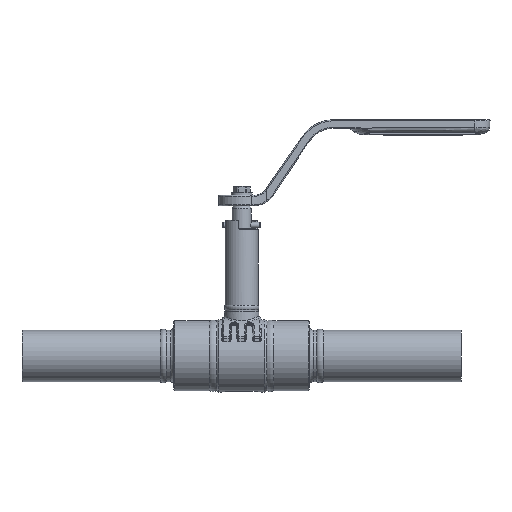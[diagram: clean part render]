
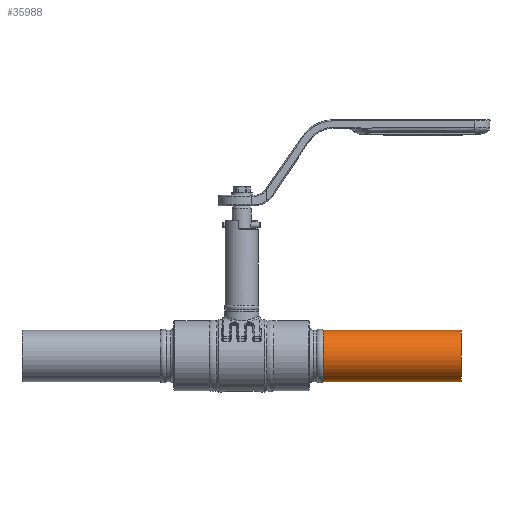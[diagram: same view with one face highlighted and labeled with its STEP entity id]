
A CAD part, front view. The second image highlights one B-rep face of the part: STEP entity #35988.
In plain terms, the highlighted cylindrical face has radius 13.45 mm (diameter 26.9 mm), a partial arc.
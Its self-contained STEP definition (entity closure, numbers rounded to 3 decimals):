
#10193=CARTESIAN_POINT('',(42.594,0.,0.));
#10194=DIRECTION('',(-1.,0.,0.));
#10195=DIRECTION('',(0.,0.,-1.));
#10196=AXIS2_PLACEMENT_3D('',#10193,#10194,#10195);
#10198=DIRECTION('',(1.,0.,0.));
#10199=VECTOR('',#10198,72.406);
#10200=CARTESIAN_POINT('',(42.594,0.,13.45));
#10201=LINE('',#10200,#10199);
#10202=DIRECTION('',(1.,0.,0.));
#10203=VECTOR('',#10202,72.406);
#10204=CARTESIAN_POINT('',(42.594,0.,-13.45));
#10205=LINE('',#10204,#10203);
#10221=CARTESIAN_POINT('',(115.,0.,0.));
#10222=DIRECTION('',(1.,0.,0.));
#10223=DIRECTION('',(0.,0.,1.));
#10224=AXIS2_PLACEMENT_3D('',#10221,#10222,#10223);
#13232=CARTESIAN_POINT('',(115.,0.,13.45));
#13233=CARTESIAN_POINT('',(115.,0.,-13.45));
#13234=VERTEX_POINT('',#13232);
#13235=VERTEX_POINT('',#13233);
#14156=CARTESIAN_POINT('',(42.594,0.,13.45));
#14157=CARTESIAN_POINT('',(42.594,0.,-13.45));
#14158=VERTEX_POINT('',#14156);
#14159=VERTEX_POINT('',#14157);
#35974=CARTESIAN_POINT('',(118.7,0.,0.));
#35975=DIRECTION('',(-1.,0.,0.));
#35976=DIRECTION('',(0.,0.,-1.));
#35977=AXIS2_PLACEMENT_3D('',#35974,#35975,#35976);
#35978=CYLINDRICAL_SURFACE('',#35977,13.45);
#35979=ORIENTED_EDGE('',*,*,#35957,.T.);
#35981=ORIENTED_EDGE('',*,*,#35980,.T.);
#35983=ORIENTED_EDGE('',*,*,#35982,.T.);
#35985=ORIENTED_EDGE('',*,*,#35984,.F.);
#35986=EDGE_LOOP('',(#35979,#35981,#35983,#35985));
#35987=FACE_OUTER_BOUND('',#35986,.F.);
#10197=CIRCLE('',#10196,13.45);
#10225=CIRCLE('',#10224,13.45);
#35957=EDGE_CURVE('',#14159,#14158,#10197,.T.);
#35980=EDGE_CURVE('',#14158,#13234,#10201,.T.);
#35982=EDGE_CURVE('',#13234,#13235,#10225,.T.);
#35984=EDGE_CURVE('',#14159,#13235,#10205,.T.);
#35988=ADVANCED_FACE('',(#35987),#35978,.T.);
